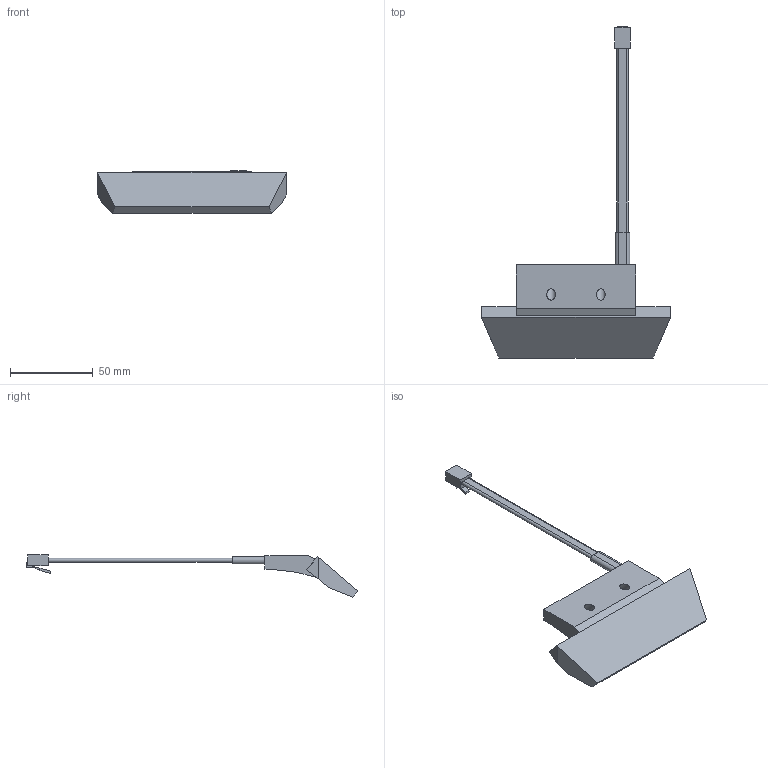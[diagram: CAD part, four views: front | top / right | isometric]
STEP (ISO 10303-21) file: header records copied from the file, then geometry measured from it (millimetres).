
FILE_DESCRIPTION( ( 'STEP AP214' ), '1' );
FILE_NAME( 'C:/Users/KOSH/Desktop/New folder/9309939.stp', '2022-02-01T05:21:55', ( '' ), ( '' ), ' ', 'PARTsolutions', ' ' );
FILE_SCHEMA( ( 'AUTOMOTIVE_DESIGN { 1 0 10303 214 1 1 1 1 }' ) );
Length unit declared in the file: millimetre
Products named in the file (1): _9309939
Bounding box: 113.48 x 199.99 x 25.49 mm (x, y, z)
Volume: 51899.6 mm3; surface area: 16680.5 mm2
Topology: 1 solids, 1 shells, 50 faces, 131 edges, 86 vertices
Faces by surface type: plane 44, cylinder 6
Full cylindrical faces by diameter (mm): 5.208 x2
Entity records: 1929 total; most frequent: CARTESIAN_POINT 266, ORIENTED_EDGE 258, DIRECTION 243, EDGE_CURVE 129, LINE 117, VECTOR 117, VERTEX_POINT 86, AXIS2_PLACEMENT_3D 63
